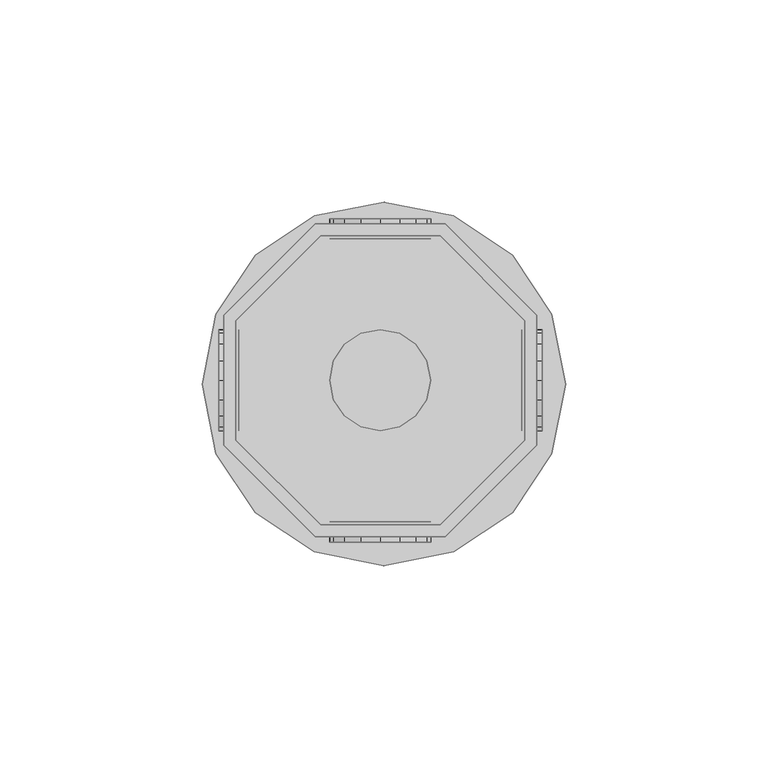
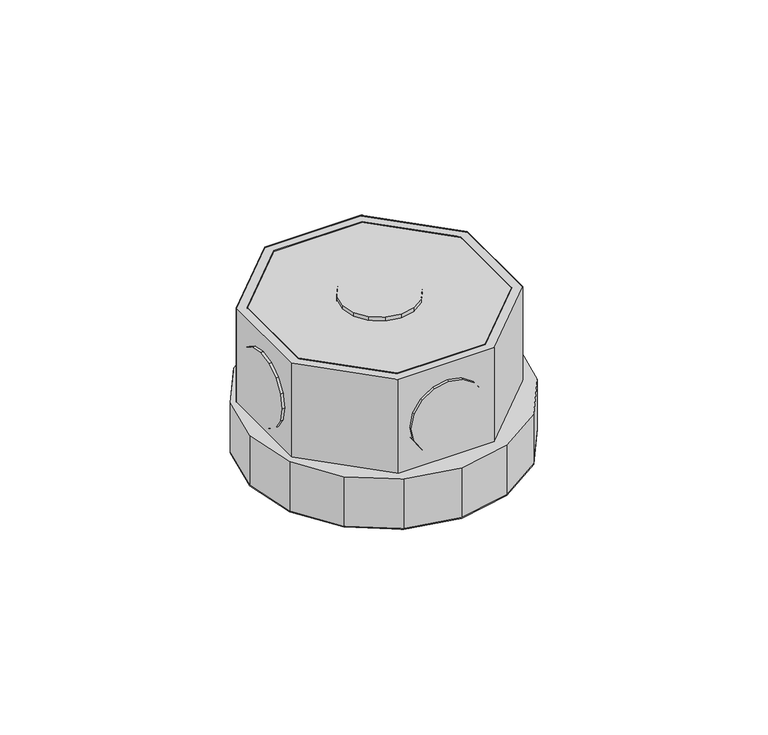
"""IFC4 building model written with IfcOpenShell, lengths in millimetres: light fixture geometry,  212524 :  212524."""

from ifc_helpers import new_model, si_unit, origin, place, context, project, spatial, triangles, source, transform, mapped, element, save


def light_fixture_5212bd1a(model_context):
    return source(origin(), model_context, "Body", "Tessellation", [
        triangles([(27650.000647, 16201.3994568, 2924.5999741), (27620.4001282, 16201.3994568, 2975.400071), (27620.4001282, 16201.3994568, 2924.5999741), (27650.000647, 16201.3994568, 2975.400071), (27651.2005737, 16126.9005157, 2924.5999741), (27619.1002075, 16126.9005157, 2975.400071), (27619.1002075, 16126.9005157, 2924.5999741), (27651.2005737, 16126.9005157, 2975.400071), (27599.3990845, 16180.3995758, 2975.400071), (27599.3990845, 16180.3995758, 2924.5999741), (27673.8991882, 16149.600293, 2924.5999741), (27673.8991882, 16149.600293, 2975.400071), (27599.3990845, 16150.8002197, 2975.400071), (27599.3990845, 16150.8002197, 2924.5999741), (27673.8991882, 16181.6994965, 2924.5999741), (27673.8991882, 16181.6994965, 2975.400071), (27620.4001282, 16129.9003326, 2975.400071), (27620.4001282, 16129.9003326, 2924.5999741), (27651.2005737, 16204.4004364, 2924.5999741), (27651.2005737, 16204.4004364, 2975.400071), (27650.000647, 16129.9003326, 2924.5999741), (27650.000647, 16129.9003326, 2975.400071), (27619.1002075, 16204.4004364, 2975.400071), (27619.1002075, 16204.4004364, 2924.5999741), (27670.8993713, 16150.8002197, 2924.5999741), (27670.8993713, 16150.8002197, 2975.400071), (27596.3992676, 16181.6994965, 2975.400071), (27596.3992676, 16181.6994965, 2924.5999741), (27596.3992676, 16149.600293, 2975.400071), (27670.8993713, 16180.3995758, 2975.400071), (27670.8993713, 16180.3995758, 2924.5999741), (27596.3992676, 16149.600293, 2924.5999741), (27599.3990845, 16150.8002197, 2972.3999634), (27620.4001282, 16129.9003326, 2972.3999634), (27650.000647, 16129.9003326, 2972.3999634), (27670.8993713, 16150.8002197, 2972.3999634), (27670.8993713, 16180.3995758, 2972.3999634), (27650.000647, 16201.3994568, 2972.3999634), (27620.4001282, 16201.3994568, 2972.3999634), (27599.3990845, 16180.3995758, 2972.3999634), (27596.3992676, 16181.6994965, 2942.4000504), (27619.1002075, 16204.4004364, 2942.4000504), (27651.2005737, 16204.4004364, 2942.4000504), (27673.8991882, 16181.6994965, 2942.4000504), (27673.8991882, 16149.600293, 2942.4000504), (27651.2005737, 16126.9005157, 2942.4000504), (27619.1002075, 16126.9005157, 2942.4000504), (27596.3992676, 16149.600293, 2942.4000504), (27618.8002258, 16123.1995789, 2942.4000504), (27594.4993835, 16147.5004211, 2942.4000504), (27604.2011169, 16132.9001495, 2942.4000504), (27591.0995911, 16164.7005341, 2942.4000504), (27594.4993835, 16181.9994781, 2942.4000504), (27604.2011169, 16196.5997498, 2942.4000504), (27618.8002258, 16206.3003204, 2942.4000504), (27636.0991699, 16209.7001129, 2942.4000504), (27653.3004456, 16206.3003204, 2942.4000504), (27677.5989624, 16181.9994781, 2942.4000504), (27667.8995544, 16196.5997498, 2942.4000504), (27636.0991699, 16119.6997925, 2942.4000504), (27653.3004456, 16123.1995789, 2942.4000504), (27667.8995544, 16132.9001495, 2942.4000504), (27677.5989624, 16147.5004211, 2942.4000504), (27681.1010742, 16164.7005341, 2942.4000504), (27594.4993835, 16147.5004211, 2924.5999741), (27618.8002258, 16123.1995789, 2924.5999741), (27604.2011169, 16132.9001495, 2924.5999741), (27591.0995911, 16164.7005341, 2924.5999741), (27594.4993835, 16181.9994781, 2924.5999741), (27604.2011169, 16196.5997498, 2924.5999741), (27618.8002258, 16206.3003204, 2924.5999741), (27636.0991699, 16209.7001129, 2924.5999741), (27653.3004456, 16206.3003204, 2924.5999741), (27677.5989624, 16181.9994781, 2924.5999741), (27667.8995544, 16196.5997498, 2924.5999741), (27636.0991699, 16119.6997925, 2924.5999741), (27653.3004456, 16123.1995789, 2924.5999741), (27667.8995544, 16132.9001495, 2924.5999741), (27677.5989624, 16147.5004211, 2924.5999741), (27681.1010742, 16164.7005341, 2924.5999741), (27623.5999329, 16205.6003632, 2952.6000092), (27630.3995178, 16205.6003632, 2945.9001274), (27626.2997681, 16205.6003632, 2948.5999626), (27622.6999878, 16205.6003632, 2957.4000069), (27635.1992249, 16205.6003632, 2944.8998978), (27623.5999329, 16205.6003632, 2962.2000046), (27639.9989319, 16205.6003632, 2945.9001274), (27626.2997681, 16205.6003632, 2966.2000511), (27644.0010132, 16205.6003632, 2948.5999626), (27630.3995178, 16205.6003632, 2968.8998863), (27646.7008484, 16205.6003632, 2952.6000092), (27635.1992249, 16205.6003632, 2969.900116), (27647.7007874, 16205.6003632, 2957.4000069), (27639.9989319, 16205.6003632, 2968.8998863), (27646.7008484, 16205.6003632, 2962.2000046), (27644.0010132, 16205.6003632, 2966.2000511), (27630.3995178, 16200.5995056, 2945.9001274), (27623.5999329, 16200.5995056, 2952.6000092), (27626.2997681, 16200.5995056, 2948.5999626), (27635.1992249, 16200.5995056, 2944.8998978), (27622.6999878, 16200.5995056, 2957.4000069), (27639.9989319, 16200.5995056, 2945.9001274), (27623.5999329, 16200.5995056, 2962.2000046), (27644.0010132, 16200.5995056, 2948.5999626), (27626.2997681, 16200.5995056, 2966.2000511), (27630.3995178, 16200.5995056, 2968.8998863), (27646.7008484, 16200.5995056, 2952.6000092), (27635.1992249, 16200.5995056, 2969.900116), (27647.7007874, 16200.5995056, 2957.4000069), (27639.9989319, 16200.5995056, 2968.8998863), (27646.7008484, 16200.5995056, 2962.2000046), (27644.0010132, 16200.5995056, 2966.2000511), (27623.5999329, 16130.6002899, 2952.6000092), (27630.3995178, 16130.6002899, 2945.9001274), (27626.2997681, 16130.6002899, 2948.5999626), (27622.6999878, 16130.6002899, 2957.4000069), (27635.1992249, 16130.6002899, 2944.8998978), (27623.5999329, 16130.6002899, 2962.2000046), (27639.9989319, 16130.6002899, 2945.9001274), (27626.2997681, 16130.6002899, 2966.2000511), (27644.0010132, 16130.6002899, 2948.5999626), (27630.3995178, 16130.6002899, 2968.8998863), (27646.7008484, 16130.6002899, 2952.6000092), (27635.1992249, 16130.6002899, 2969.900116), (27647.7007874, 16130.6002899, 2957.4000069), (27639.9989319, 16130.6002899, 2968.8998863), (27646.7008484, 16130.6002899, 2962.2000046), (27644.0010132, 16130.6002899, 2966.2000511), (27630.3995178, 16125.5994324, 2945.9001274), (27623.5999329, 16125.5994324, 2952.6000092), (27626.2997681, 16125.5994324, 2948.5999626), (27635.1992249, 16125.5994324, 2944.8998978), (27622.6999878, 16125.5994324, 2957.4000069), (27639.9989319, 16125.5994324, 2945.9001274), (27623.5999329, 16125.5994324, 2962.2000046), (27644.0010132, 16125.5994324, 2948.5999626), (27626.2997681, 16125.5994324, 2966.2000511), (27630.3995178, 16125.5994324, 2968.8998863), (27646.7008484, 16125.5994324, 2952.6000092), (27635.1992249, 16125.5994324, 2969.900116), (27647.7007874, 16125.5994324, 2957.4000069), (27639.9989319, 16125.5994324, 2968.8998863), (27646.7008484, 16125.5994324, 2962.2000046), (27644.0010132, 16125.5994324, 2966.2000511), (27600.1990356, 16160.7996094, 2945.9001274), (27600.1990356, 16154.1000183, 2952.6000092), (27600.1990356, 16156.7998535, 2948.5999626), (27600.1990356, 16165.6004791, 2944.8998978), (27600.1990356, 16153.1000793, 2957.4000069), (27600.1990356, 16170.4001862, 2945.9001274), (27600.1990356, 16154.1000183, 2962.2000046), (27600.1990356, 16174.4999359, 2948.5999626), (27600.1990356, 16156.7998535, 2966.2000511), (27600.1990356, 16160.7996094, 2968.8998863), (27600.1990356, 16177.1997711, 2952.6000092), (27600.1990356, 16165.6004791, 2969.900116), (27600.1990356, 16178.0997162, 2957.4000069), (27600.1990356, 16170.4001862, 2968.8998863), (27600.1990356, 16177.1997711, 2962.2000046), (27600.1990356, 16174.4999359, 2966.2000511), (27595.1993408, 16154.1000183, 2952.6000092), (27595.1993408, 16160.7996094, 2945.9001274), (27595.1993408, 16156.7998535, 2948.5999626), (27595.1993408, 16153.1000793, 2957.4000069), (27595.1993408, 16165.6004791, 2944.8998978), (27595.1993408, 16154.1000183, 2962.2000046), (27595.1993408, 16170.4001862, 2945.9001274), (27595.1993408, 16156.7998535, 2966.2000511), (27595.1993408, 16174.4999359, 2948.5999626), (27595.1993408, 16160.7996094, 2968.8998863), (27595.1993408, 16177.1997711, 2952.6000092), (27595.1993408, 16165.6004791, 2969.900116), (27595.1993408, 16178.0997162, 2957.4000069), (27595.1993408, 16170.4001862, 2968.8998863), (27595.1993408, 16177.1997711, 2962.2000046), (27595.1993408, 16174.4999359, 2966.2000511), (27675.1991089, 16160.7996094, 2945.9001274), (27675.1991089, 16154.1000183, 2952.6000092), (27675.1991089, 16156.7998535, 2948.5999626), (27675.1991089, 16165.6004791, 2944.8998978), (27675.1991089, 16153.1000793, 2957.4000069), (27675.1991089, 16170.4001862, 2945.9001274), (27675.1991089, 16154.1000183, 2962.2000046), (27675.1991089, 16174.4999359, 2948.5999626), (27675.1991089, 16156.7998535, 2966.2000511), (27675.1991089, 16160.7996094, 2968.8998863), (27675.1991089, 16177.1997711, 2952.6000092), (27675.1991089, 16165.6004791, 2969.900116), (27675.1991089, 16178.0997162, 2957.4000069), (27675.1991089, 16170.4001862, 2968.8998863), (27675.1991089, 16177.1997711, 2962.2000046), (27675.1991089, 16174.4999359, 2966.2000511), (27670.1994141, 16154.1000183, 2952.6000092), (27670.1994141, 16160.7996094, 2945.9001274), (27670.1994141, 16156.7998535, 2948.5999626), (27670.1994141, 16153.1000793, 2957.4000069), (27670.1994141, 16165.6004791, 2944.8998978), (27670.1994141, 16154.1000183, 2962.2000046), (27670.1994141, 16170.4001862, 2945.9001274), (27670.1994141, 16156.7998535, 2966.2000511), (27670.1994141, 16174.4999359, 2948.5999626), (27670.1994141, 16160.7996094, 2968.8998863), (27670.1994141, 16177.1997711, 2952.6000092), (27670.1994141, 16165.6004791, 2969.900116), (27670.1994141, 16178.0997162, 2957.4000069), (27670.1994141, 16170.4001862, 2968.8998863), (27670.1994141, 16177.1997711, 2962.2000046), (27670.1994141, 16174.4999359, 2966.2000511), (27630.3995178, 16154.1000183, 2976.9999733), (27623.5999329, 16160.7996094, 2976.9999733), (27626.2997681, 16156.7998535, 2976.9999733), (27622.6999878, 16165.6004791, 2976.9999733), (27635.1992249, 16153.1000793, 2976.9999733), (27623.5999329, 16170.4001862, 2976.9999733), (27639.9989319, 16154.1000183, 2976.9999733), (27626.2997681, 16174.4999359, 2976.9999733), (27644.0010132, 16156.7998535, 2976.9999733), (27630.3995178, 16177.1997711, 2976.9999733), (27646.7008484, 16160.7996094, 2976.9999733), (27635.1992249, 16178.0997162, 2976.9999733), (27647.7007874, 16165.6004791, 2976.9999733), (27639.9989319, 16177.1997711, 2976.9999733), (27646.7008484, 16170.4001862, 2976.9999733), (27644.0010132, 16174.4999359, 2976.9999733), (27623.5999329, 16160.7996094, 2971.9999878), (27630.3995178, 16154.1000183, 2971.9999878), (27626.2997681, 16156.7998535, 2971.9999878), (27622.6999878, 16165.6004791, 2971.9999878), (27635.1992249, 16153.1000793, 2971.9999878), (27623.5999329, 16170.4001862, 2971.9999878), (27639.9989319, 16154.1000183, 2971.9999878), (27626.2997681, 16174.4999359, 2971.9999878), (27644.0010132, 16156.7998535, 2971.9999878), (27630.3995178, 16177.1997711, 2971.9999878), (27646.7008484, 16160.7996094, 2971.9999878), (27635.1992249, 16178.0997162, 2971.9999878), (27647.7007874, 16165.6004791, 2971.9999878), (27639.9989319, 16177.1997711, 2971.9999878), (27646.7008484, 16170.4001862, 2971.9999878), (27644.0010132, 16174.4999359, 2971.9999878)], [[1, 2, 3], [2, 1, 4], [5, 6, 7], [6, 5, 8], [3, 9, 10], [9, 3, 2], [11, 8, 5], [8, 11, 12], [10, 13, 14], [13, 10, 9], [15, 12, 11], [12, 15, 16], [14, 17, 18], [17, 14, 13], [19, 16, 15], [16, 19, 20], [17, 21, 18], [21, 17, 22], [23, 19, 24], [19, 23, 20], [22, 25, 21], [25, 22, 26], [27, 24, 28], [24, 27, 23], [6, 13, 29], [29, 13, 27], [27, 13, 9], [27, 9, 23], [23, 9, 2], [23, 2, 4], [23, 4, 20], [20, 4, 30], [8, 17, 6], [6, 17, 13], [17, 8, 22], [12, 22, 8], [22, 12, 26], [30, 26, 12], [16, 30, 12], [20, 30, 16], [30, 1, 31], [1, 30, 4], [6, 32, 7], [32, 6, 29], [32, 14, 7], [28, 14, 32], [14, 28, 10], [24, 10, 28], [10, 24, 3], [1, 3, 24], [19, 1, 24], [31, 1, 19], [7, 18, 5], [14, 18, 7], [5, 18, 21], [5, 21, 11], [11, 21, 25], [11, 25, 31], [11, 31, 15], [15, 31, 19], [26, 31, 25], [31, 26, 30], [29, 28, 32], [28, 29, 27], [17, 33, 34], [33, 17, 13], [35, 17, 34], [17, 35, 22], [36, 22, 35], [22, 36, 26], [37, 26, 36], [26, 37, 30], [38, 30, 37], [30, 38, 4], [2, 38, 39], [38, 2, 4], [17, 9, 13], [9, 17, 22], [9, 22, 2], [2, 22, 26], [2, 26, 4], [4, 26, 30], [13, 40, 33], [40, 13, 9], [40, 34, 33], [35, 34, 40], [35, 40, 39], [35, 39, 36], [36, 39, 38], [36, 38, 37], [9, 39, 40], [39, 9, 2], [24, 41, 28], [41, 24, 42], [19, 42, 24], [42, 19, 43], [44, 19, 15], [19, 44, 43], [45, 15, 11], [15, 45, 44], [46, 11, 5], [11, 46, 45], [47, 5, 7], [5, 47, 46], [32, 47, 7], [47, 32, 48], [28, 48, 32], [48, 28, 41], [49, 50, 51], [48, 50, 49], [50, 48, 52], [41, 52, 48], [52, 41, 53], [53, 41, 54], [42, 54, 41], [54, 42, 55], [55, 42, 43], [55, 43, 56], [56, 43, 57], [57, 43, 44], [57, 44, 58], [57, 58, 59], [47, 49, 60], [49, 47, 48], [47, 60, 46], [61, 46, 60], [46, 61, 62], [46, 62, 45], [45, 62, 63], [44, 45, 63], [44, 63, 64], [44, 64, 58], [65, 66, 67], [66, 65, 32], [68, 32, 65], [32, 68, 28], [28, 68, 69], [70, 28, 69], [28, 70, 24], [71, 24, 70], [19, 24, 71], [19, 71, 72], [73, 19, 72], [19, 73, 15], [74, 15, 73], [74, 73, 75], [76, 66, 7], [32, 7, 66], [5, 76, 7], [76, 5, 77], [77, 5, 78], [11, 78, 5], [78, 11, 79], [79, 11, 15], [79, 15, 80], [80, 15, 74], [57, 75, 73], [75, 57, 59], [56, 73, 72], [73, 56, 57], [55, 72, 71], [72, 55, 56], [54, 71, 70], [71, 54, 55], [53, 70, 69], [70, 53, 54], [52, 69, 68], [69, 52, 53], [50, 68, 65], [68, 50, 52], [51, 65, 67], [65, 51, 50], [66, 51, 67], [51, 66, 49], [76, 49, 66], [49, 76, 60], [77, 60, 76], [60, 77, 61], [78, 61, 77], [61, 78, 62], [79, 62, 78], [62, 79, 63], [80, 63, 79], [63, 80, 64], [75, 58, 74], [58, 75, 59], [74, 64, 80], [64, 74, 58], [81, 82, 83], [82, 81, 84], [85, 82, 84], [85, 84, 86], [87, 85, 86], [87, 86, 88], [87, 88, 89], [89, 88, 90], [89, 90, 91], [91, 90, 92], [91, 92, 93], [93, 92, 94], [93, 94, 95], [95, 94, 96], [97, 98, 99], [98, 97, 100], [101, 98, 100], [101, 100, 102], [103, 101, 102], [103, 102, 104], [103, 104, 105], [105, 104, 106], [106, 104, 107], [106, 107, 108], [108, 107, 109], [108, 109, 110], [110, 109, 111], [110, 111, 112], [87, 104, 102], [104, 87, 89], [85, 102, 100], [102, 85, 87], [82, 100, 97], [100, 82, 85], [83, 97, 99], [97, 83, 82], [98, 83, 99], [83, 98, 81], [101, 81, 98], [81, 101, 84], [103, 84, 101], [84, 103, 86], [105, 86, 103], [86, 105, 88], [106, 88, 105], [88, 106, 90], [108, 90, 106], [90, 108, 92], [110, 92, 108], [92, 110, 94], [112, 94, 110], [94, 112, 96], [95, 112, 111], [112, 95, 96], [93, 111, 109], [111, 93, 95], [89, 107, 104], [107, 89, 91], [91, 109, 107], [109, 91, 93], [113, 114, 115], [114, 113, 116], [117, 114, 116], [117, 116, 118], [119, 117, 118], [119, 118, 120], [119, 120, 121], [121, 120, 122], [121, 122, 123], [123, 122, 124], [123, 124, 125], [125, 124, 126], [125, 126, 127], [127, 126, 128], [129, 130, 131], [130, 129, 132], [133, 130, 132], [133, 132, 134], [135, 133, 134], [135, 134, 136], [135, 136, 137], [137, 136, 138], [138, 136, 139], [138, 139, 140], [140, 139, 141], [140, 141, 142], [142, 141, 143], [142, 143, 144], [119, 136, 134], [136, 119, 121], [117, 134, 132], [134, 117, 119], [114, 132, 129], [132, 114, 117], [115, 129, 131], [129, 115, 114], [130, 115, 131], [115, 130, 113], [133, 113, 130], [113, 133, 116], [135, 116, 133], [116, 135, 118], [137, 118, 135], [118, 137, 120], [138, 120, 137], [120, 138, 122], [140, 122, 138], [122, 140, 124], [142, 124, 140], [124, 142, 126], [144, 126, 142], [126, 144, 128], [127, 144, 143], [144, 127, 128], [125, 143, 141], [143, 125, 127], [121, 139, 136], [139, 121, 123], [123, 141, 139], [141, 123, 125], [145, 146, 147], [146, 145, 148], [149, 146, 148], [149, 148, 150], [151, 149, 150], [151, 150, 152], [151, 152, 153], [153, 152, 154], [154, 152, 155], [154, 155, 156], [156, 155, 157], [156, 157, 158], [158, 157, 159], [158, 159, 160], [161, 162, 163], [162, 161, 164], [165, 162, 164], [165, 164, 166], [167, 165, 166], [167, 166, 168], [169, 167, 168], [169, 168, 170], [169, 170, 171], [171, 170, 172], [171, 172, 173], [173, 172, 174], [173, 174, 175], [175, 174, 176], [158, 176, 174], [176, 158, 160], [156, 174, 172], [174, 156, 158], [154, 172, 170], [172, 154, 156], [153, 170, 168], [170, 153, 154], [151, 168, 166], [168, 151, 153], [149, 166, 164], [166, 149, 151], [146, 164, 161], [164, 146, 149], [147, 161, 163], [161, 147, 146], [162, 147, 163], [147, 162, 145], [165, 145, 162], [145, 165, 148], [167, 148, 165], [148, 167, 150], [169, 150, 167], [150, 169, 152], [171, 152, 169], [152, 171, 155], [173, 155, 171], [155, 173, 157], [176, 159, 175], [159, 176, 160], [175, 157, 173], [157, 175, 159], [177, 178, 179], [178, 177, 180], [181, 178, 180], [181, 180, 182], [183, 181, 182], [183, 182, 184], [183, 184, 185], [185, 184, 186], [186, 184, 187], [186, 187, 188], [188, 187, 189], [188, 189, 190], [190, 189, 191], [190, 191, 192], [193, 194, 195], [194, 193, 196], [197, 194, 196], [197, 196, 198], [199, 197, 198], [199, 198, 200], [201, 199, 200], [201, 200, 202], [201, 202, 203], [203, 202, 204], [203, 204, 205], [205, 204, 206], [205, 206, 207], [207, 206, 208], [190, 208, 206], [208, 190, 192], [188, 206, 204], [206, 188, 190], [186, 204, 202], [204, 186, 188], [185, 202, 200], [202, 185, 186], [183, 200, 198], [200, 183, 185], [181, 198, 196], [198, 181, 183], [178, 196, 193], [196, 178, 181], [179, 193, 195], [193, 179, 178], [194, 179, 195], [179, 194, 177], [197, 177, 194], [177, 197, 180], [199, 180, 197], [180, 199, 182], [201, 182, 199], [182, 201, 184], [203, 184, 201], [184, 203, 187], [205, 187, 203], [187, 205, 189], [208, 191, 207], [191, 208, 192], [207, 189, 205], [189, 207, 191], [209, 210, 211], [212, 210, 209], [212, 209, 213], [214, 212, 213], [214, 213, 215], [216, 214, 215], [216, 215, 217], [216, 217, 218], [218, 217, 219], [218, 219, 220], [220, 219, 221], [220, 221, 222], [222, 221, 223], [222, 223, 224], [225, 226, 227], [226, 225, 228], [229, 226, 228], [229, 228, 230], [231, 229, 230], [231, 230, 232], [231, 232, 233], [233, 232, 234], [233, 234, 235], [235, 234, 236], [235, 236, 237], [237, 236, 238], [237, 238, 239], [239, 238, 240], [222, 240, 238], [240, 222, 224], [220, 238, 236], [238, 220, 222], [218, 236, 234], [236, 218, 220], [216, 234, 232], [234, 216, 218], [214, 232, 230], [232, 214, 216], [212, 230, 228], [230, 212, 214], [210, 228, 225], [228, 210, 212], [211, 225, 227], [225, 211, 210], [226, 211, 227], [211, 226, 209], [229, 209, 226], [209, 229, 213], [231, 213, 229], [213, 231, 215], [233, 215, 231], [215, 233, 217], [235, 217, 233], [217, 235, 219], [237, 219, 235], [219, 237, 221], [240, 223, 239], [223, 240, 224], [239, 221, 237], [221, 239, 223]], closed=False),
    ])


if __name__ == "__main__":
    model = new_model("IFC4")
    model_context = context("Model", 3, world=origin())
    ifc_project = project(units=[si_unit("LENGTHUNIT", "METRE", prefix="MILLI")], contexts=[model_context])
    site = spatial("IfcSite", under=ifc_project)
    building = spatial("IfcBuilding", under=site)
    placement = place(None, origin())
    light_fixture_shape = light_fixture_5212bd1a(model_context)
    element("IfcLightFixture", 1, ObjectType=" 212524 :  212524", at=placement, inside=building, context=model_context, shape_type="MappedRepresentation", body=[
        mapped(light_fixture_shape, transform((0.0, 0.0, 0.0), x_axis=(1.0, 0.0, 0.0), y_axis=(0.0, 1.0, 0.0), z_axis=(0.0, 0.0, 1.0))),
    ])
    save(model, "model.ifc")
